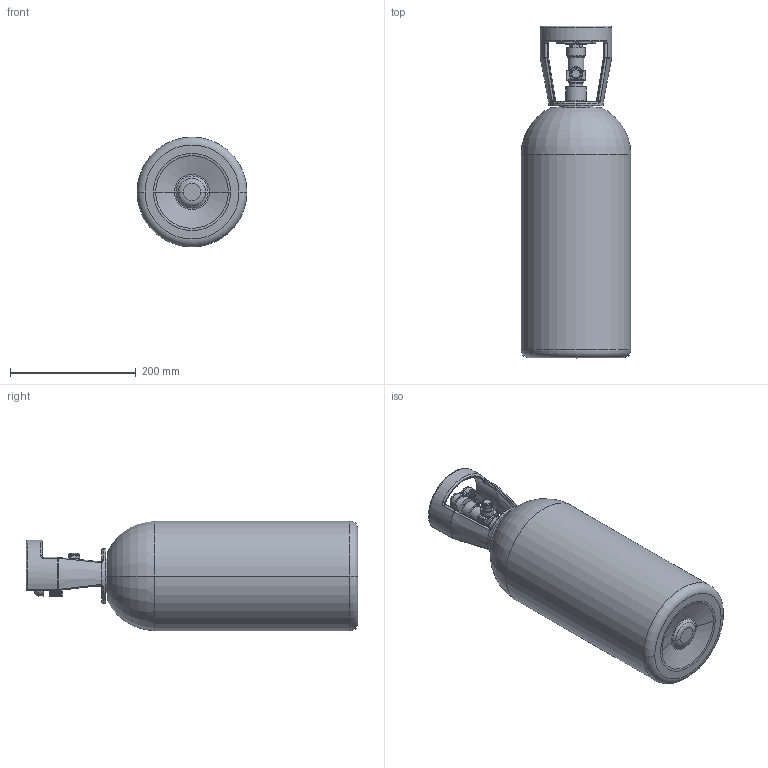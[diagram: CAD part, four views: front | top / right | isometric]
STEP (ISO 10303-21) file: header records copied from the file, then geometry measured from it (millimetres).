
FILE_DESCRIPTION (( 'STEP AP203' ), '1' );
FILE_NAME ('Bevi 10LB CO2 Tank.STEP', '2025-11-13T15:13:26', ( '' ), ( '' ), 'SwSTEP 2.0', 'SolidWorks 2025', '' );
FILE_SCHEMA (( 'CONFIG_CONTROL_DESIGN' ));
Length unit declared in the file: inch
Products named in the file (1): Bevi 10LB CO2 Tank
Bounding box: 175.01 x 528.51 x 175.01 mm (x, y, z)
Volume: 9267682.3 mm3; surface area: 314124 mm2
Topology: 4 solids, 4 shells, 403 faces, 951 edges, 550 vertices
Faces by surface type: cylinder 157, torus 82, plane 60, bspline 60, sphere 27, cone 17
Entity records: 15179 total; most frequent: CARTESIAN_POINT 6167, DIRECTION 1979, ORIENTED_EDGE 1868, EDGE_CURVE 934, AXIS2_PLACEMENT_3D 862, VERTEX_POINT 546, CIRCLE 518, EDGE_LOOP 414
